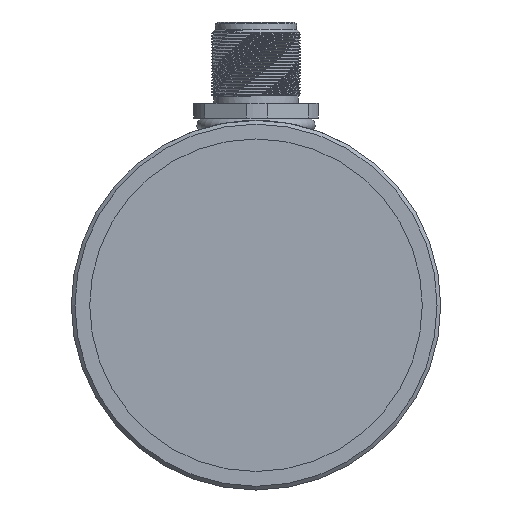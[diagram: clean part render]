
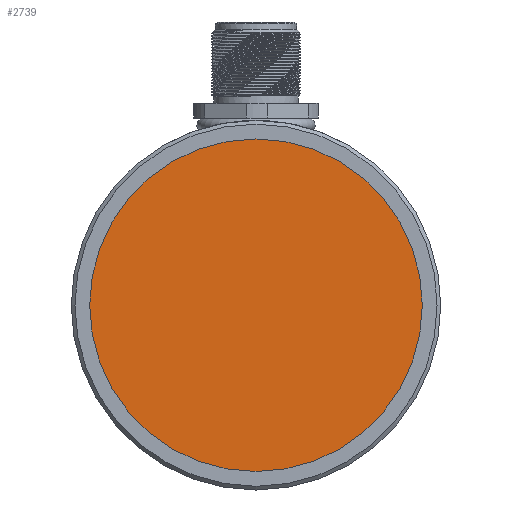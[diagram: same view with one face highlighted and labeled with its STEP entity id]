
A CAD part, left-side view. The second image highlights one B-rep face of the part: STEP entity #2739.
In plain terms, the highlighted planar face has unit normal (-1, 0, 0).
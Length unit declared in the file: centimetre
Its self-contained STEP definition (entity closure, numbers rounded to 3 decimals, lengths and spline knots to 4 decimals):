
#805=VERTEX_POINT('',#3779);
#1025=CIRCLE('',#2948,2.25);
#1172=EDGE_CURVE('',#805,#805,#1025,.T.);
#1611=ORIENTED_EDGE('',*,*,#1172,.T.);
#2268=EDGE_LOOP('',(#1611));
#2508=FACE_BOUND('',#2268,.T.);
#2739=ADVANCED_FACE('',(#2508),#15320,.T.);
#2948=AXIS2_PLACEMENT_3D('',#3778,#3259,#3260);
#2950=AXIS2_PLACEMENT_3D('',#3782,#3263,$);
#3259=DIRECTION('',(-1.,0.,0.));
#3260=DIRECTION('',(0.,0.,2.25));
#3263=DIRECTION('',(-1.,0.,0.));
#3778=CARTESIAN_POINT('',(0.1,0.,0.));
#3779=CARTESIAN_POINT('',(0.1,0.,2.25));
#3782=CARTESIAN_POINT('',(0.1,0.,0.));
#15320=PLANE('',#2950);
